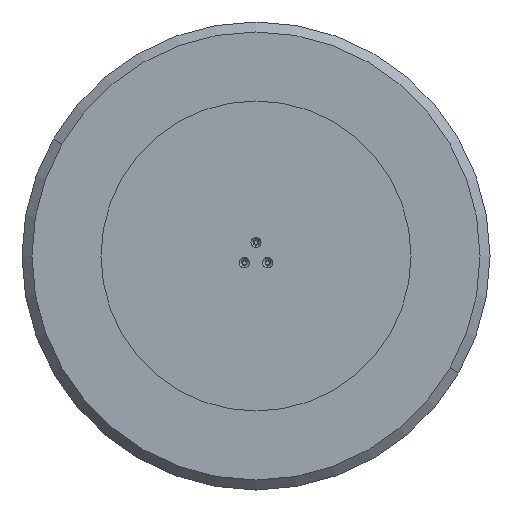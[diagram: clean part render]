
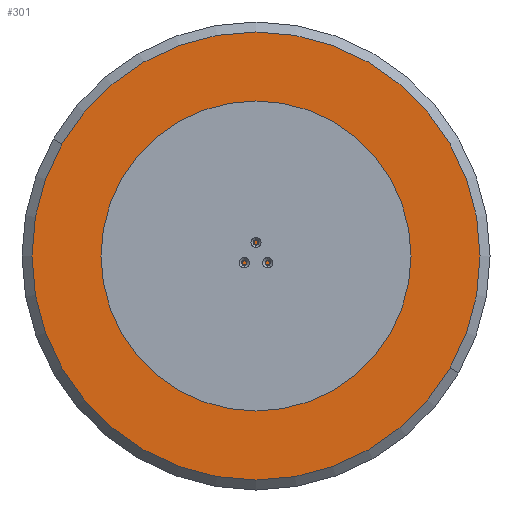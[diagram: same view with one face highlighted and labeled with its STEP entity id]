
A CAD part, front view. The second image highlights one B-rep face of the part: STEP entity #301.
In plain terms, the highlighted planar face has unit normal (0, -1, 0).
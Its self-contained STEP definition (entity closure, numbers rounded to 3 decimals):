
#80 = ORIENTED_EDGE ( 'NONE', *, *, #2733, .F. ) ;
#85 = ORIENTED_EDGE ( 'NONE', *, *, #3606, .F. ) ;
#121 = ORIENTED_EDGE ( 'NONE', *, *, #3198, .T. ) ;
#170 = CARTESIAN_POINT ( 'NONE',  ( 0., 0., 109.697 ) ) ;
#255 = CIRCLE ( 'NONE', #1047, 3.4 ) ;
#256 = CARTESIAN_POINT ( 'NONE',  ( 95., 0., -51.448 ) ) ;
#301 = ADVANCED_FACE ( 'NONE', ( #3603, #700, #2772, #1038, #1614 ), #2177, .T. ) ;
#322 = EDGE_CURVE ( 'NONE', #2125, #3701, #401, .T. ) ;
#367 = CARTESIAN_POINT ( 'NONE',  ( -95., 0., -54.848 ) ) ;
#380 = CARTESIAN_POINT ( 'NONE',  ( 0., 0., 0. ) ) ;
#389 = CIRCLE ( 'NONE', #3257, 3.4 ) ;
#401 = CIRCLE ( 'NONE', #2726, 383. ) ;
#457 = ORIENTED_EDGE ( 'NONE', *, *, #1124, .F. ) ;
#534 = ORIENTED_EDGE ( 'NONE', *, *, #322, .T. ) ;
#700 = FACE_BOUND ( 'NONE', #2326, .T. ) ;
#730 = DIRECTION ( 'NONE',  ( 0., -1., 0. ) ) ;
#736 = AXIS2_PLACEMENT_3D ( 'NONE', #2570, #856, #3169 ) ;
#799 = CARTESIAN_POINT ( 'NONE',  ( -95., 0., -51.448 ) ) ;
#856 = DIRECTION ( 'NONE',  ( 0., -1., 0. ) ) ;
#870 = CARTESIAN_POINT ( 'NONE',  ( 0., 0., -383. ) ) ;
#884 = EDGE_LOOP ( 'NONE', ( #121, #534 ) ) ;
#895 = CARTESIAN_POINT ( 'NONE',  ( -95., 0., -54.848 ) ) ;
#986 = AXIS2_PLACEMENT_3D ( 'NONE', #3510, #2990, #2339 ) ;
#987 = DIRECTION ( 'NONE',  ( 0., 0., -1. ) ) ;
#988 = CIRCLE ( 'NONE', #3503, 3.4 ) ;
#1028 = DIRECTION ( 'NONE',  ( 0., 0., -1. ) ) ;
#1038 = FACE_OUTER_BOUND ( 'NONE', #884, .T. ) ;
#1047 = AXIS2_PLACEMENT_3D ( 'NONE', #2159, #730, #2434 ) ;
#1052 = DIRECTION ( 'NONE',  ( 0., -1., 0. ) ) ;
#1087 = VERTEX_POINT ( 'NONE', #1558 ) ;
#1102 = ORIENTED_EDGE ( 'NONE', *, *, #3309, .F. ) ;
#1124 = EDGE_CURVE ( 'NONE', #2792, #1087, #2668, .T. ) ;
#1126 = CARTESIAN_POINT ( 'NONE',  ( 0., 0., 0. ) ) ;
#1318 = DIRECTION ( 'NONE',  ( 0., -1., 0. ) ) ;
#1335 = AXIS2_PLACEMENT_3D ( 'NONE', #367, #1503, #3496 ) ;
#1487 = DIRECTION ( 'NONE',  ( 0., 0., -1. ) ) ;
#1503 = DIRECTION ( 'NONE',  ( 0., -1., 0. ) ) ;
#1527 = CARTESIAN_POINT ( 'NONE',  ( 0., 0., 383. ) ) ;
#1555 = DIRECTION ( 'NONE',  ( 0., 0., -1. ) ) ;
#1558 = CARTESIAN_POINT ( 'NONE',  ( 0., 0., 113.097 ) ) ;
#1606 = EDGE_LOOP ( 'NONE', ( #85, #80 ) ) ;
#1614 = FACE_BOUND ( 'NONE', #3456, .T. ) ;
#1619 = CARTESIAN_POINT ( 'NONE',  ( 0., 0., 106.297 ) ) ;
#1635 = CIRCLE ( 'NONE', #986, 383. ) ;
#1714 = ORIENTED_EDGE ( 'NONE', *, *, #2634, .F. ) ;
#1743 = CIRCLE ( 'NONE', #3250, 3.4 ) ;
#1841 = DIRECTION ( 'NONE',  ( 0., 0., -1. ) ) ;
#1877 = CIRCLE ( 'NONE', #3613, 3.4 ) ;
#1897 = CARTESIAN_POINT ( 'NONE',  ( 0., 0., 0. ) ) ;
#1988 = CARTESIAN_POINT ( 'NONE',  ( 0., 0., 3.4 ) ) ;
#2044 = DIRECTION ( 'NONE',  ( 0., -1., 0. ) ) ;
#2125 = VERTEX_POINT ( 'NONE', #870 ) ;
#2127 = DIRECTION ( 'NONE',  ( 0., -1., 0. ) ) ;
#2145 = ORIENTED_EDGE ( 'NONE', *, *, #2509, .F. ) ;
#2159 = CARTESIAN_POINT ( 'NONE',  ( 95., 0., -54.848 ) ) ;
#2177 = PLANE ( 'NONE',  #3625 ) ;
#2204 = EDGE_CURVE ( 'NONE', #2953, #3514, #1743, .T. ) ;
#2208 = DIRECTION ( 'NONE',  ( 0., 0., -1. ) ) ;
#2273 = DIRECTION ( 'NONE',  ( 0., -1., 0. ) ) ;
#2298 = CARTESIAN_POINT ( 'NONE',  ( 0., 0., -3.4 ) ) ;
#2326 = EDGE_LOOP ( 'NONE', ( #457, #2145 ) ) ;
#2339 = DIRECTION ( 'NONE',  ( 0., 0., -1. ) ) ;
#2434 = DIRECTION ( 'NONE',  ( 0., 0., -1. ) ) ;
#2468 = CARTESIAN_POINT ( 'NONE',  ( 0., 0., 0. ) ) ;
#2509 = EDGE_CURVE ( 'NONE', #1087, #2792, #3075, .T. ) ;
#2570 = CARTESIAN_POINT ( 'NONE',  ( 0., 0., 109.697 ) ) ;
#2634 = EDGE_CURVE ( 'NONE', #2949, #2714, #1877, .T. ) ;
#2641 = CARTESIAN_POINT ( 'NONE',  ( 95., 0., -58.248 ) ) ;
#2668 = CIRCLE ( 'NONE', #3520, 3.4 ) ;
#2688 = CARTESIAN_POINT ( 'NONE',  ( 95., 0., -54.848 ) ) ;
#2714 = VERTEX_POINT ( 'NONE', #2641 ) ;
#2726 = AXIS2_PLACEMENT_3D ( 'NONE', #2468, #2127, #1555 ) ;
#2733 = EDGE_CURVE ( 'NONE', #3493, #3264, #3028, .T. ) ;
#2772 = FACE_BOUND ( 'NONE', #3287, .T. ) ;
#2792 = VERTEX_POINT ( 'NONE', #1619 ) ;
#2949 = VERTEX_POINT ( 'NONE', #256 ) ;
#2951 = CARTESIAN_POINT ( 'NONE',  ( -95., 0., -58.248 ) ) ;
#2953 = VERTEX_POINT ( 'NONE', #1988 ) ;
#2990 = DIRECTION ( 'NONE',  ( 0., -1., 0. ) ) ;
#2994 = DIRECTION ( 'NONE',  ( 0., -1., 0. ) ) ;
#3028 = CIRCLE ( 'NONE', #1335, 3.4 ) ;
#3075 = CIRCLE ( 'NONE', #736, 3.4 ) ;
#3147 = DIRECTION ( 'NONE',  ( 0., 0., -1. ) ) ;
#3169 = DIRECTION ( 'NONE',  ( 0., 0., -1. ) ) ;
#3198 = EDGE_CURVE ( 'NONE', #3701, #2125, #1635, .T. ) ;
#3250 = AXIS2_PLACEMENT_3D ( 'NONE', #1126, #2273, #1487 ) ;
#3257 = AXIS2_PLACEMENT_3D ( 'NONE', #380, #1052, #2208 ) ;
#3264 = VERTEX_POINT ( 'NONE', #2951 ) ;
#3287 = EDGE_LOOP ( 'NONE', ( #1102, #1714 ) ) ;
#3296 = DIRECTION ( 'NONE',  ( 0., -1., 0. ) ) ;
#3308 = EDGE_CURVE ( 'NONE', #3514, #2953, #389, .T. ) ;
#3309 = EDGE_CURVE ( 'NONE', #2714, #2949, #255, .T. ) ;
#3456 = EDGE_LOOP ( 'NONE', ( #3682, #3545 ) ) ;
#3493 = VERTEX_POINT ( 'NONE', #799 ) ;
#3496 = DIRECTION ( 'NONE',  ( 0., 0., -1. ) ) ;
#3503 = AXIS2_PLACEMENT_3D ( 'NONE', #895, #2044, #3147 ) ;
#3510 = CARTESIAN_POINT ( 'NONE',  ( 0., 0., 0. ) ) ;
#3514 = VERTEX_POINT ( 'NONE', #2298 ) ;
#3520 = AXIS2_PLACEMENT_3D ( 'NONE', #170, #1318, #987 ) ;
#3545 = ORIENTED_EDGE ( 'NONE', *, *, #2204, .F. ) ;
#3603 = FACE_BOUND ( 'NONE', #1606, .T. ) ;
#3606 = EDGE_CURVE ( 'NONE', #3264, #3493, #988, .T. ) ;
#3613 = AXIS2_PLACEMENT_3D ( 'NONE', #2688, #3296, #1028 ) ;
#3625 = AXIS2_PLACEMENT_3D ( 'NONE', #1897, #2994, #1841 ) ;
#3682 = ORIENTED_EDGE ( 'NONE', *, *, #3308, .F. ) ;
#3701 = VERTEX_POINT ( 'NONE', #1527 ) ;
